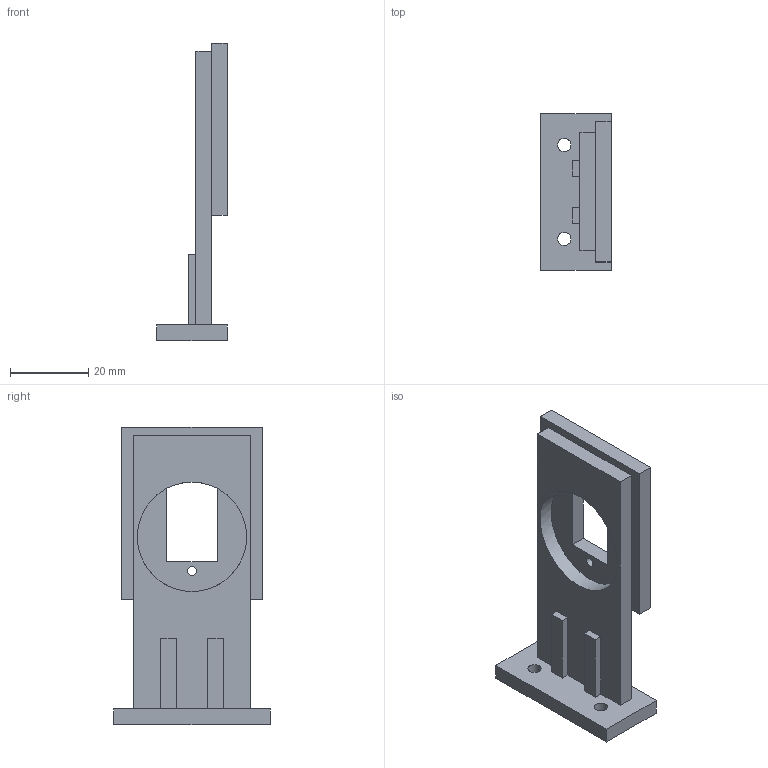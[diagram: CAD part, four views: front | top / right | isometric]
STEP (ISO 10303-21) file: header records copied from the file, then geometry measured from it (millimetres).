
FILE_DESCRIPTION(('FreeCAD Model'),'2;1');
FILE_NAME('Open CASCADE Shape Model','2026-11-07T00:59:45',('FreeCAD'),( 'FreeCAD'),'Open CASCADE STEP processor 7.8','FreeCAD','Unknown');
FILE_SCHEMA(('AUTOMOTIVE_DESIGN { 1 0 10303 214 1 1 1 1 }'));
Length unit declared in the file: millimetre
Products named in the file (1): Open CASCADE STEP translator 7.8 6
Bounding box: 18 x 40 x 76 mm (x, y, z)
Volume: 14137 mm3; surface area: 8326.8 mm2
Topology: 1 solids, 1 shells, 37 faces, 95 edges, 62 vertices
Faces by surface type: plane 32, cylinder 5
Full cylindrical faces by diameter (mm): 2.3 x2, 3.4 x2, 28 x1
Entity records: 1135 total; most frequent: CARTESIAN_POINT 195, ORIENTED_EDGE 190, DIRECTION 183, EDGE_CURVE 95, LINE 83, VECTOR 83, VERTEX_POINT 62, AXIS2_PLACEMENT_3D 50
